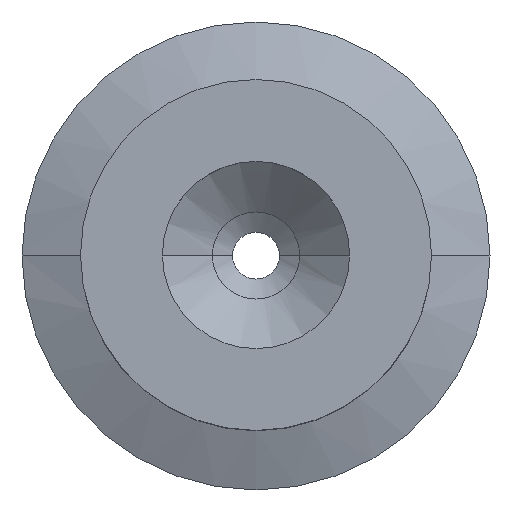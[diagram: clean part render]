
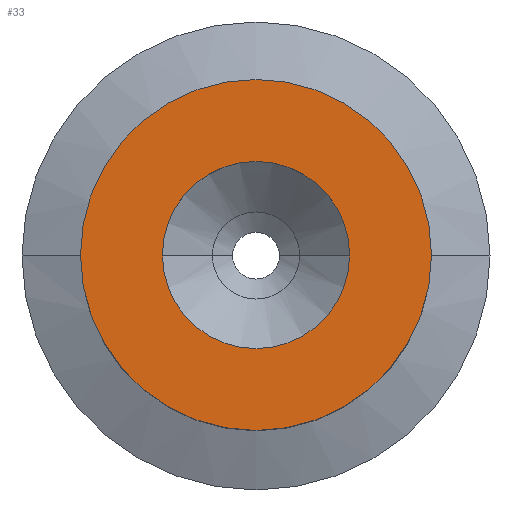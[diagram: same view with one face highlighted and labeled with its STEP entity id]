
A CAD part, top view. The second image highlights one B-rep face of the part: STEP entity #33.
In plain terms, the highlighted planar face has unit normal (0, 0, 1).
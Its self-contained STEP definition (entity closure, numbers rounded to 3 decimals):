
#7 = PLANE ( 'NONE',  #939 ) ;
#33 = ADVANCED_FACE ( 'NONE', ( #292, #95 ), #7, .F. ) ;
#95 = FACE_OUTER_BOUND ( 'NONE', #469, .T. ) ;
#124 = DIRECTION ( 'NONE',  ( 1., 0., 0. ) ) ;
#142 = CARTESIAN_POINT ( 'NONE',  ( 0., 0., 0. ) ) ;
#145 = CARTESIAN_POINT ( 'NONE',  ( -4., 0., 0. ) ) ;
#156 = AXIS2_PLACEMENT_3D ( 'NONE', #727, #202, #648 ) ;
#202 = DIRECTION ( 'NONE',  ( 0., 0., 1. ) ) ;
#208 = CIRCLE ( 'NONE', #682, 7.5 ) ;
#220 = DIRECTION ( 'NONE',  ( 1., 0., 0. ) ) ;
#227 = DIRECTION ( 'NONE',  ( 0., 0., 1. ) ) ;
#260 = ORIENTED_EDGE ( 'NONE', *, *, #542, .F. ) ;
#278 = CARTESIAN_POINT ( 'NONE',  ( 0., 0., 0. ) ) ;
#290 = CIRCLE ( 'NONE', #156, 4. ) ;
#292 = FACE_BOUND ( 'NONE', #704, .T. ) ;
#343 = ORIENTED_EDGE ( 'NONE', *, *, #842, .F. ) ;
#355 = DIRECTION ( 'NONE',  ( -1., 0., 0. ) ) ;
#374 = VERTEX_POINT ( 'NONE', #748 ) ;
#405 = CIRCLE ( 'NONE', #888, 4. ) ;
#415 = CIRCLE ( 'NONE', #652, 7.5 ) ;
#434 = VERTEX_POINT ( 'NONE', #145 ) ;
#439 = VERTEX_POINT ( 'NONE', #445 ) ;
#445 = CARTESIAN_POINT ( 'NONE',  ( 4., 0., 0. ) ) ;
#452 = ORIENTED_EDGE ( 'NONE', *, *, #688, .T. ) ;
#469 = EDGE_LOOP ( 'NONE', ( #452, #556 ) ) ;
#542 = EDGE_CURVE ( 'NONE', #439, #434, #290, .T. ) ;
#556 = ORIENTED_EDGE ( 'NONE', *, *, #787, .T. ) ;
#648 = DIRECTION ( 'NONE',  ( 1., 0., 0. ) ) ;
#652 = AXIS2_PLACEMENT_3D ( 'NONE', #278, #797, #124 ) ;
#656 = CARTESIAN_POINT ( 'NONE',  ( 0., 0., 0. ) ) ;
#665 = DIRECTION ( 'NONE',  ( 0., 0., 1. ) ) ;
#671 = CARTESIAN_POINT ( 'NONE',  ( 0., 0., 0. ) ) ;
#682 = AXIS2_PLACEMENT_3D ( 'NONE', #142, #665, #220 ) ;
#688 = EDGE_CURVE ( 'NONE', #374, #776, #415, .T. ) ;
#704 = EDGE_LOOP ( 'NONE', ( #260, #343 ) ) ;
#727 = CARTESIAN_POINT ( 'NONE',  ( 0., 0., 0. ) ) ;
#746 = DIRECTION ( 'NONE',  ( 1., 0., 0. ) ) ;
#748 = CARTESIAN_POINT ( 'NONE',  ( 7.5, 0., 0. ) ) ;
#776 = VERTEX_POINT ( 'NONE', #969 ) ;
#787 = EDGE_CURVE ( 'NONE', #776, #374, #208, .T. ) ;
#797 = DIRECTION ( 'NONE',  ( 0., 0., 1. ) ) ;
#842 = EDGE_CURVE ( 'NONE', #434, #439, #405, .T. ) ;
#882 = DIRECTION ( 'NONE',  ( 0., 0., -1. ) ) ;
#888 = AXIS2_PLACEMENT_3D ( 'NONE', #671, #227, #746 ) ;
#939 = AXIS2_PLACEMENT_3D ( 'NONE', #656, #882, #355 ) ;
#969 = CARTESIAN_POINT ( 'NONE',  ( -7.5, 0., 0. ) ) ;
